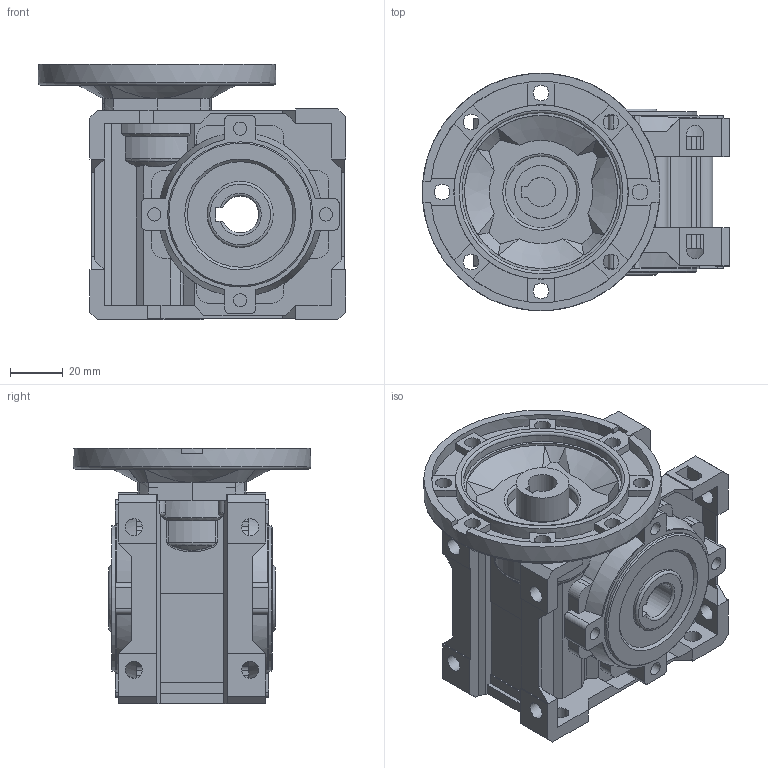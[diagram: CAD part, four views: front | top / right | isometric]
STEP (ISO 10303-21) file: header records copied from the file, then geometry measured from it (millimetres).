
FILE_DESCRIPTION( ( 'Unknown' ), '1' );
FILE_NAME( 'E:/services/configuratordownloads/customers/tramec/xh/download/21A71ED8E771221866E823296D80D221/STEP/21A71ED8E771221866E823296D80D221.3d.stp', 'Unknown', ( 'Unknown' ), ( 'Unknown' ), 'PSStep 10.1', 'Unknown', ' ' );
FILE_SCHEMA( ( 'AUTOMOTIVE_DESIGN { 1 0 10303 214 1 1 1 1 }' ) );
Length unit declared in the file: millimetre
Products named in the file (1): 1011610011-Corpo riduttore XC30
Bounding box: 116.5 x 90 x 97 mm (x, y, z)
Volume: 310568.6 mm3; surface area: 80497.1 mm2
Topology: 1 solids, 4 shells, 554 faces, 1514 edges, 985 vertices
Faces by surface type: plane 357, cylinder 148, cone 34, torus 12, bspline 3
Full cylindrical faces by diameter (mm): 5 x8, 6 x8, 6.5 x12, 20 x1, 22.1 x1, 25 x4, 27 x1, 30 x1, 40 x1, 47 x2, 55 x2, 58 x1, 60 x1, 66 x1, 90 x1
Entity records: 22284 total; most frequent: CARTESIAN_POINT 3910, ORIENTED_EDGE 2872, DIRECTION 2854, EDGE_CURVE 1436, VERTEX_POINT 961, AXIS2_PLACEMENT_3D 956, LINE 942, VECTOR 942
